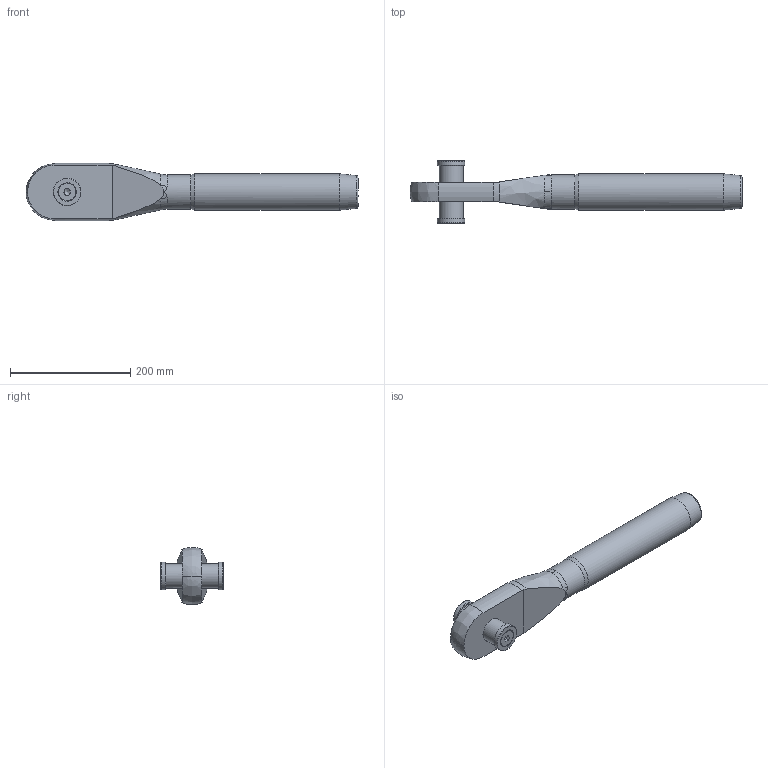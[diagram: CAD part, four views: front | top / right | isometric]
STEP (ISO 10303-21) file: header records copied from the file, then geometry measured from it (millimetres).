
FILE_DESCRIPTION(/* description */ (''),/* implementation_level */ '2;1');
FILE_NAME(/* name */ 'MCC 30_42CrMo4',/* time_stamp */ '2023-05-23T15:41:04+02:00',/* author */ (''),/* organization */ (''),/* preprocessor_version */ 'ST-DEVELOPER v16.5',/* originating_system */ 'Rhino 7.22',/* authorisation */ '');
FILE_SCHEMA (('CONFIG_CONTROL_DESIGN'));
Length unit declared in the file: millimetre
Products named in the file (1): Document
Bounding box: 552.5 x 103.21 x 95 mm (x, y, z)
Volume: 1652255.2 mm3; surface area: 146982.8 mm2
Topology: 6 solids, 6 shells, 74 faces, 203 edges, 135 vertices
Faces by surface type: bspline 31, plane 27, cylinder 16
Full cylindrical faces by diameter (mm): 13.835 x2, 16 x2, 17 x2, 29.01 x2, 40 x1, 42 x1, 46 x2, 57.2 x1, 60.5 x1
Entity records: 3250 total; most frequent: CARTESIAN_POINT 1995, ORIENTED_EDGE 386, EDGE_CURVE 193, VERTEX_POINT 135, EDGE_LOOP 84, ADVANCED_FACE 74, FACE_OUTER_BOUND 74, B_SPLINE_CURVE_WITH_KNOTS 64
